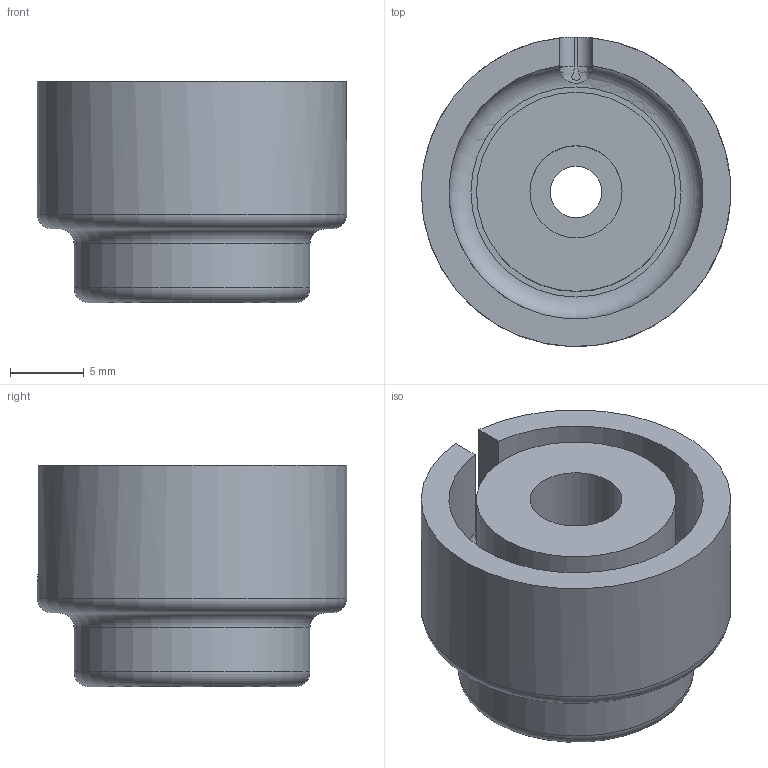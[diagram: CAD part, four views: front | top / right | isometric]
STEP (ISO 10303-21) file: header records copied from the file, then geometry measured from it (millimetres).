
FILE_DESCRIPTION( ( '' ), ' ' );
FILE_NAME( '/vol/tmp/translate-3636040708518972809/5b317f603f476d1102fc80f0.step', '2018-06-25T23:48:48', ( '' ), ( '' ), ' ', ' ', ' ' );
FILE_SCHEMA( ( 'AUTOMOTIVE_DESIGN { 1 0 10303 214 1 1 1 1 }' ) );
Length unit declared in the file: metre
Products named in the file (1): Torque damper input
Bounding box: 21 x 21 x 15 mm (x, y, z)
Volume: 3154 mm3; surface area: 2564.9 mm2
Topology: 1 solids, 1 shells, 33 faces, 75 edges, 48 vertices
Faces by surface type: plane 16, cylinder 10, torus 4, bspline 3
Full cylindrical faces by diameter (mm): 3.5 x1, 6.25 x1, 13.5 x1, 16 x1, 21 x1
Entity records: 11852 total; most frequent: CARTESIAN_POINT 10883, DIRECTION 142, ORIENTED_EDGE 126, EDGE_CURVE 63, AXIS2_PLACEMENT_3D 56, EDGE_LOOP 48, VERTEX_POINT 45, FACE_OUTER_BOUND 42
